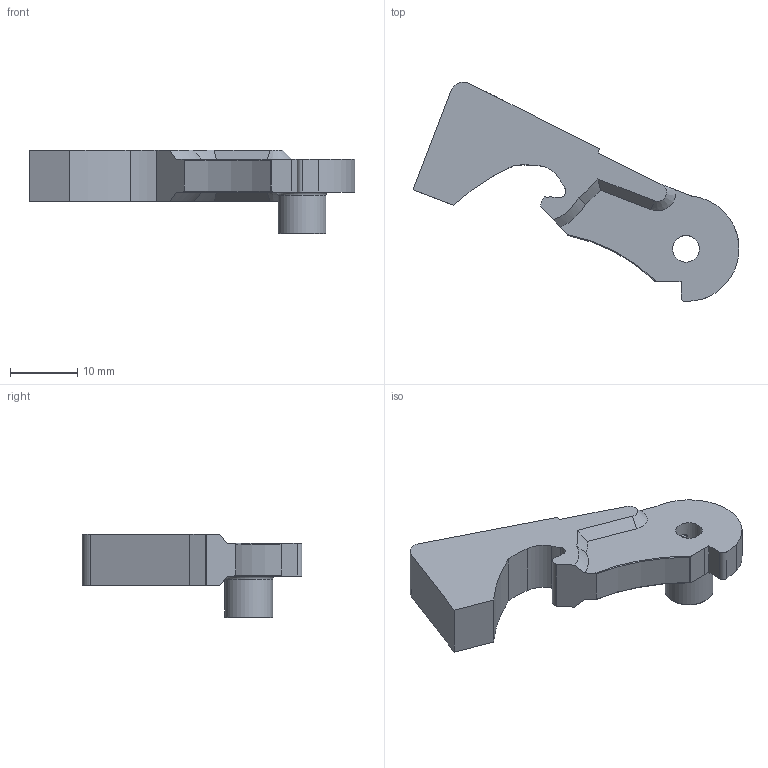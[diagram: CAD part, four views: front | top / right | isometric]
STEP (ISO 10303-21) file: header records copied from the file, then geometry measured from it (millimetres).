
FILE_DESCRIPTION(/* description */ (''),/* implementation_level */ '2;1');
FILE_NAME(/* name */ 'D:\~~GatCad\Ivan''s Printable Fire Control Group (AR15, FGC-9, etc)\STEP\CMMG Specific Hammer V1.0.stp',/* time_stamp */ '2021-01-30T13:48:47-06:00',/* author */ ('johne'),/* organization */ (''),/* preprocessor_version */ 'ST-DEVELOPER v18',/* originating_system */ 'Autodesk Inventor 2020',/* authorisation */ '');
FILE_SCHEMA (('AUTOMOTIVE_DESIGN { 1 0 10303 214 3 1 1 }'));
Length unit declared in the file: millimetre
Products named in the file (1): CMMG Specific Hammer
Bounding box: 48.33 x 32.58 x 12.45 mm (x, y, z)
Volume: 3684.5 mm3; surface area: 2571.3 mm2
Topology: 1 solids, 1 shells, 63 faces, 168 edges, 110 vertices
Faces by surface type: cylinder 23, plane 23, torus 7, cone 6, bspline 4
Full cylindrical faces by diameter (mm): 0.813 x1, 3.9 x1, 3.962 x1, 7.112 x1, 7.366 x1
Entity records: 2265 total; most frequent: CARTESIAN_POINT 605, DIRECTION 350, ORIENTED_EDGE 336, EDGE_CURVE 168, AXIS2_PLACEMENT_3D 138, VERTEX_POINT 110, CIRCLE 76, LINE 74
